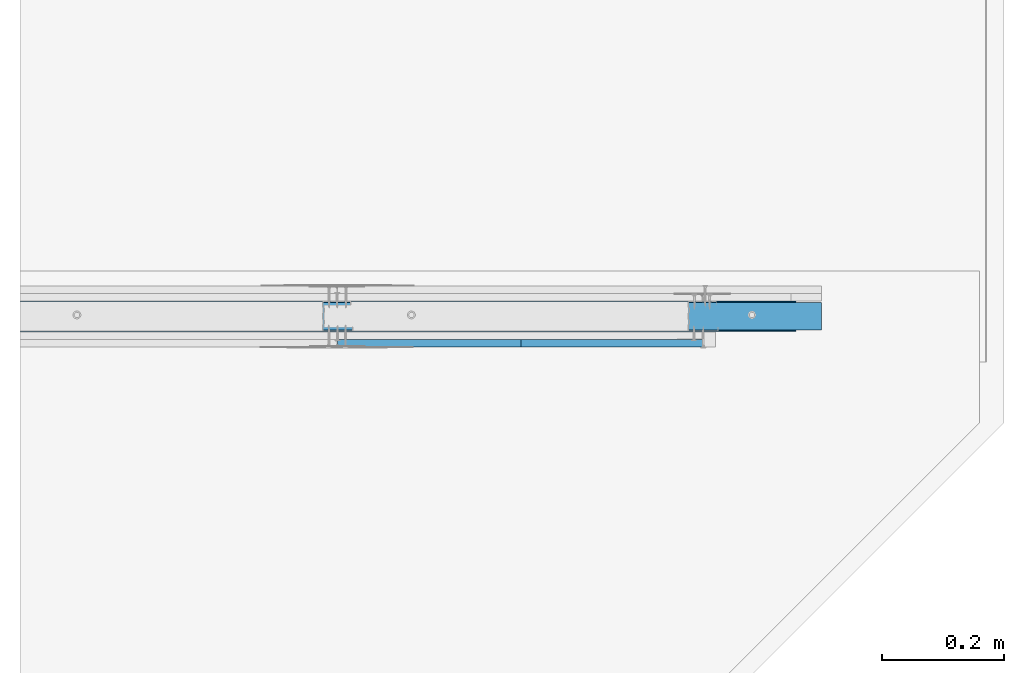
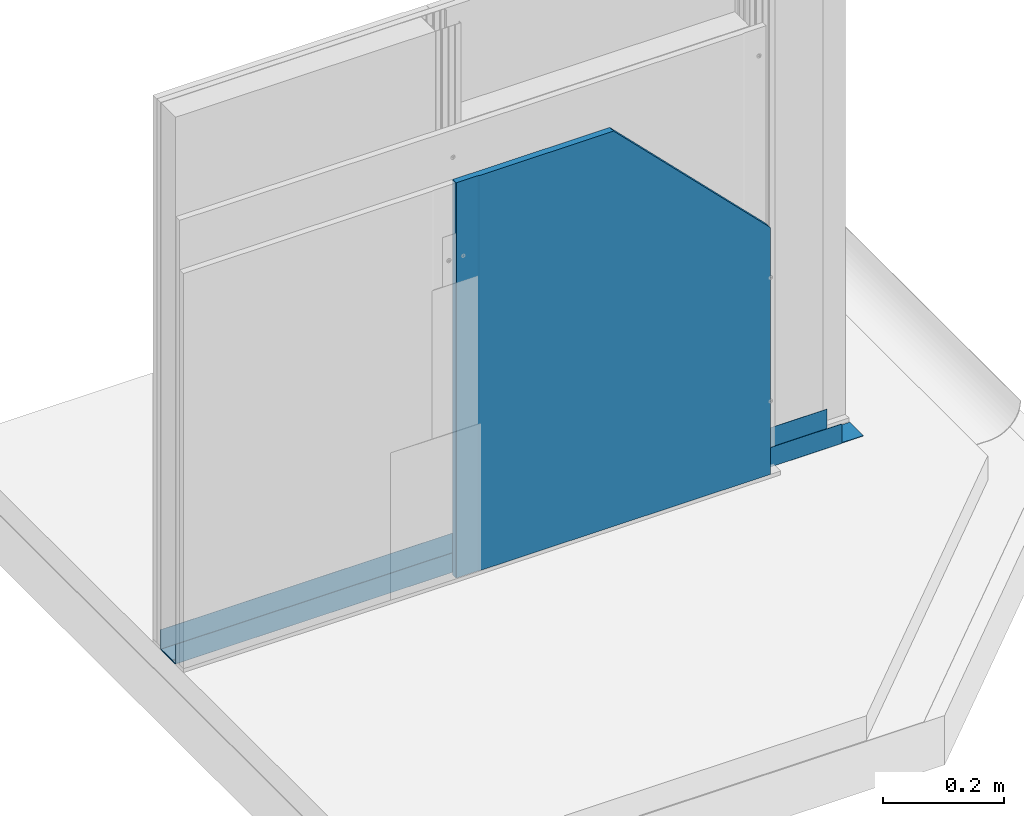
# One storey, part 2 of 37: 3 walls.
"""IFC2X3 building model written with IfcOpenShell, lengths in millimetres."""

from ifc_helpers import new_model, entity, si_unit, converted_unit, direction, frame, origin, origin_with_axes, place, context, project, spatial, faceted_brep, element, save


model = new_model("IFC2X3")

# Units and contexts
model_context = context("Model", 3, precision=1e-05, world=origin(), true_north=direction((0.0, 1.0, 0.0)))
ifc_project = project(units=[si_unit("LENGTHUNIT", "METRE", prefix="MILLI"), si_unit("AREAUNIT", "SQUARE_METRE"), si_unit("VOLUMEUNIT", "CUBIC_METRE"), converted_unit("PLANEANGLEUNIT", "DEGREE", entity("IfcPlaneAngleMeasure", 0.01745), si_unit("PLANEANGLEUNIT", "RADIAN"), dimensions=[0, 0, 0, 0, 0, 0, 0]), si_unit("SOLIDANGLEUNIT", "STERADIAN"), si_unit("MASSUNIT", "GRAM"), si_unit("TIMEUNIT", "SECOND"), si_unit("THERMODYNAMICTEMPERATUREUNIT", "DEGREE_CELSIUS"), si_unit("LUMINOUSINTENSITYUNIT", "LUMEN")], contexts=[model_context])

# Site, building, storey
site_placement = place(None, origin_with_axes())
site = spatial("IfcSite", under=ifc_project, at=site_placement, Name="Default Site", CompositionType="ELEMENT")
building_placement = place(site_placement, origin_with_axes())
building = spatial("IfcBuilding", under=site, at=building_placement, Name="Default Building", CompositionType="ELEMENT")
storey_placement = place(building_placement, origin_with_axes())
storey = spatial("IfcBuildingStorey", under=building, at=storey_placement, Name="Default Building Storey", CompositionType="ELEMENT", Elevation=0.0)

# Walls
wall_1_placement = place(storey_placement, frame((3207.215400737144, 5452.424146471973, 59.39039522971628), z_axis=(6.446348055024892e-14, -6.858158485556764e-13, 1.0), x_axis=(1.0, -1.14833748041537e-16, -9.00774876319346e-14)))
element("IfcWall", 1, at=wall_1_placement, inside=storey, Name="Profil RIGIPS UW50 ULTRASTIL®", context=model_context, shape_type="Brep", body=[
    faceted_brep([(-943.956929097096, -3470.476261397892, -4.901701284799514), (-943.956929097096, -3470.287116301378, -4.783410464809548), (-943.956929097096, -3470.128902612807, -4.626130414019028), (-1082.190267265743, -3470.128902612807, -4.626130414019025), (-1082.190267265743, -3470.476261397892, -4.901701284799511), (-943.956929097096, -3470.063927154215, -4.535249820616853), (-943.956929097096, -3470.009494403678, -4.437688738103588), (-1082.190267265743, -3470.009494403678, -4.437688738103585), (-943.956929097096, -3440.279331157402, -4.783410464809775), (-943.956929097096, -3440.090186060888, -4.901701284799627), (-943.956929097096, -3439.87952304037, -4.97511570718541), (-1082.190267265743, -3439.87952304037, -4.975115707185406), (-1082.190267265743, -3440.279331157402, -4.783410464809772), (-943.9569290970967, -3440.819375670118, -2.866589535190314), (-943.9569290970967, -3441.008520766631, -2.748298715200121), (-943.9569290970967, -3441.219183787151, -2.674884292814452), (-1082.190267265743, -3441.219183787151, -2.67488429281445), (-1082.190267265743, -3440.819375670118, -2.866589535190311), (-943.9569290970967, -3469.55792669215, -2.74829871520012), (-943.9569290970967, -3469.747071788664, -2.866589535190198), (-943.9569290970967, -3469.905285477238, -3.023869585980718), (-1082.190267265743, -3469.905285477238, -3.023869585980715), (-1082.190267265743, -3469.55792669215, -2.748298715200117), (-1082.190267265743, -3479.733223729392, 35.00000000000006), (-1082.190267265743, -3480.283223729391, 35.00000000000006), (-1082.190267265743, -3480.283223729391, -4.199999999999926), (-1082.190267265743, -3480.273374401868, -4.325147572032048), (-1082.190267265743, -3480.244068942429, -4.447213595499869), (-1082.190267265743, -3480.196028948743, -4.563192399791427), (-1082.190267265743, -3480.130437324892, -4.670228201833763), (-1082.190267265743, -3480.048909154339, -4.765685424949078), (-1082.190267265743, -3479.953451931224, -4.847213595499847), (-1082.190267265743, -3479.846416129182, -4.912805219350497), (-1082.190267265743, -3479.73043732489, -4.960845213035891), (-1082.190267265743, -3479.608371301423, -4.99015067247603), (-1082.190267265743, -3479.483223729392, -4.999999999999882), (-1082.190267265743, -3470.908620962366, -4.999999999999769), (-1082.190267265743, -3470.686924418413, -4.975115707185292), (-1082.190267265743, -3469.680725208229, -3.762311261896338), (-1082.190267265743, -3469.561316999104, -3.573869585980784), (-1082.190267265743, -3469.403103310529, -3.416589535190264), (-1082.190267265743, -3469.213958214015, -3.298298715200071), (-1082.190267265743, -3469.003295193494, -3.224884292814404), (-1082.190267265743, -3468.781598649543, -3.199999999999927), (-1082.190267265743, -3441.78484880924, -3.199999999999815), (-1082.190267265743, -3441.563152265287, -3.224884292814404), (-1082.190267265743, -3441.352489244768, -3.298298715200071), (-1082.190267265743, -3441.163344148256, -3.416589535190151), (-1082.190267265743, -3441.005130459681, -3.573869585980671), (-1082.190267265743, -3440.885722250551, -3.762311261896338), (-1082.190267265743, -3440.556953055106, -4.437688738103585), (-1082.190267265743, -3440.437544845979, -4.626130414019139), (-1082.190267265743, -3439.657826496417, -4.999999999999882), (-1082.190267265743, -3431.083223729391, -4.999999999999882), (-1082.190267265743, -3430.95807615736, -4.990150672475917), (-1082.190267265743, -3430.83601013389, -4.960845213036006), (-1082.190267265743, -3430.720031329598, -4.912805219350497), (-1082.190267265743, -3430.612995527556, -4.847213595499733), (-1082.190267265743, -3430.51753830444, -4.765685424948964), (-1082.190267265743, -3430.436010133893, -4.670228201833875), (-1082.190267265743, -3430.370418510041, -4.563192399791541), (-1082.190267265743, -3430.322378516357, -4.447213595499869), (-1082.190267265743, -3430.293073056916, -4.325147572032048), (-1082.190267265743, -3430.283223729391, -4.199999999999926), (-1082.190267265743, -3430.283223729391, 35.00000000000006), (-1082.190267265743, -3430.833223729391, 35.00000000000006), (-1082.190267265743, -3430.833223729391, -4.199999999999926), (-1082.190267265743, -3430.836301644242, -4.23910861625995), (-1082.190267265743, -3430.845459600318, -4.27725424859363), (-1082.190267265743, -3430.860472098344, -4.313497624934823), (-1082.190267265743, -3430.880969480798, -4.346946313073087), (-1082.190267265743, -3430.906447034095, -4.376776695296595), (-1082.190267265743, -3430.936277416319, -4.402254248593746), (-1082.190267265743, -3430.969726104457, -4.422751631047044), (-1082.190267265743, -3431.005969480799, -4.437764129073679), (-1082.190267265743, -3431.044115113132, -4.44692208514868), (-1082.190267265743, -3431.083223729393, -4.449999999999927), (-1082.190267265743, -3439.313858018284, -4.45000000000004), (-1082.190267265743, -3439.535554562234, -4.425115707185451), (-1082.190267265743, -3439.746217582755, -4.351701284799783), (-1082.190267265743, -3439.935362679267, -4.233410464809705), (-1082.190267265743, -3440.093576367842, -4.076130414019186), (-1082.190267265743, -3440.212984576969, -3.887688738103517), (-1082.190267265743, -3440.541753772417, -3.212311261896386), (-1082.190267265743, -3440.661161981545, -3.02386958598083), (-1082.190267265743, -3441.440880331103, -2.649999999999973), (-1082.190267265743, -3469.125567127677, -2.649999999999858), (-1082.190267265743, -3469.347263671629, -2.674884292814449), (-1082.190267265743, -3470.024693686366, -3.212311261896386), (-1082.190267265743, -3470.353462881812, -3.887688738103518), (-1082.190267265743, -3470.472871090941, -4.076130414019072), (-1082.190267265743, -3470.631084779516, -4.233410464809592), (-1082.190267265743, -3470.820229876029, -4.351701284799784), (-1082.190267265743, -3471.030892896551, -4.425115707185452), (-1082.190267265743, -3471.252589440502, -4.449999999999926), (-1082.190267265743, -3479.483223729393, -4.449999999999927), (-1082.190267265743, -3479.522332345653, -4.446922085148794), (-1082.190267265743, -3479.560477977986, -4.437764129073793), (-1082.190267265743, -3479.596721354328, -4.422751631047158), (-1082.190267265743, -3479.630170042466, -4.402254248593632), (-1082.190267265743, -3479.660000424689, -4.376776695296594), (-1082.190267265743, -3479.685477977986, -4.346946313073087), (-1082.190267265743, -3479.705975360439, -4.313497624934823), (-1082.190267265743, -3479.720987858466, -4.27725424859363), (-1082.190267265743, -3479.730145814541, -4.23910861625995), (-1082.190267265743, -3479.733223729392, -4.199999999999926), (193.5273232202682, -3480.283223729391, -4.200000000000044), (193.5273232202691, -3480.283223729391, 35.0), (193.5273232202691, -3479.733223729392, 35.0), (193.5273232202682, -3479.733223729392, -4.200000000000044), (193.5273232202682, -3479.730145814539, -4.239108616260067), (193.5273232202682, -3479.720987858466, -4.277254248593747), (193.5273232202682, -3479.705975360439, -4.313497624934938), (193.5273232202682, -3479.685477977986, -4.346946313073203), (193.5273232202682, -3479.660000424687, -4.376776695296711), (193.5273232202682, -3479.630170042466, -4.402254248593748), (193.5273232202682, -3479.596721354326, -4.422751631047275), (193.5273232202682, -3479.560477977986, -4.43776412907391), (193.5273232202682, -3479.522332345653, -4.446922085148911), (193.5273232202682, -3479.483223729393, -4.450000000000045), (193.5273232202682, -3471.252589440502, -4.450000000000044), (193.5273232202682, -3471.030892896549, -4.425115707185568), (193.5273232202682, -3470.820229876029, -4.3517012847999), (193.5273232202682, -3470.631084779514, -4.233410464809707), (193.5273232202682, -3470.472871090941, -4.076130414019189), (193.5273232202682, -3470.353462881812, -3.887688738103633), (193.5273232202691, -3470.024693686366, -3.212311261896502), (193.5273232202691, -3469.905285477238, -3.023869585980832), (193.5273232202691, -3469.747071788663, -2.866589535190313), (193.5273232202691, -3469.55792669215, -2.748298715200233), (193.5273232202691, -3469.347263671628, -2.674884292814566), (193.5273232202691, -3469.125567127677, -2.649999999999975), (193.5273232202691, -3441.440880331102, -2.650000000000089), (193.5273232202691, -3441.219183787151, -2.674884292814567), (193.5273232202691, -3441.008520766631, -2.748298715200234), (193.5273232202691, -3440.819375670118, -2.866589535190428), (193.5273232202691, -3440.661161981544, -3.023869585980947), (193.5273232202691, -3440.541753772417, -3.212311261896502), (193.5273232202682, -3440.212984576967, -3.887688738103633), (193.5273232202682, -3440.093576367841, -4.076130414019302), (193.5273232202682, -3439.935362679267, -4.233410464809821), (193.5273232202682, -3439.746217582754, -4.3517012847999), (193.5273232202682, -3439.535554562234, -4.425115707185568), (193.5273232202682, -3439.313858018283, -4.450000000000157), (193.5273232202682, -3431.083223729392, -4.450000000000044), (193.5273232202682, -3431.044115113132, -4.446922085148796), (193.5273232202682, -3431.005969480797, -4.437764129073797), (193.5273232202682, -3430.969726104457, -4.422751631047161), (193.5273232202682, -3430.936277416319, -4.402254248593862), (193.5273232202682, -3430.906447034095, -4.376776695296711), (193.5273232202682, -3430.880969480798, -4.346946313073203), (193.5273232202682, -3430.860472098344, -4.313497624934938), (193.5273232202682, -3430.845459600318, -4.277254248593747), (193.5273232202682, -3430.836301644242, -4.239108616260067), (193.5273232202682, -3430.833223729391, -4.200000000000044), (193.5273232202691, -3430.833223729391, 35.0), (193.5273232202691, -3430.283223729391, 35.0), (193.5273232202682, -3430.283223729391, -4.200000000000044), (193.5273232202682, -3430.293073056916, -4.325147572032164), (193.5273232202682, -3430.322378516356, -4.447213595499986), (193.5273232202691, -3430.370418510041, -4.563192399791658), (193.5273232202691, -3430.436010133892, -4.670228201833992), (193.5273232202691, -3430.51753830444, -4.765685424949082), (193.5273232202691, -3430.612995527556, -4.84721359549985), (193.5273232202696, -3430.720031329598, -4.912805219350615), (193.5273232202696, -3430.83601013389, -4.960845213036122), (193.5273232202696, -3430.958076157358, -4.990150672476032), (193.5273232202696, -3431.083223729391, -4.999999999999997), (193.5273232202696, -3439.657826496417, -4.999999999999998), (193.5273232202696, -3439.879523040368, -4.975115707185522), (193.5273232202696, -3440.090186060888, -4.901701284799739), (193.5273232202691, -3440.279331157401, -4.783410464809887), (193.5273232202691, -3440.437544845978, -4.626130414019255), (193.5273232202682, -3440.556953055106, -4.437688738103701), (193.5273232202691, -3440.88572225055, -3.762311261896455), (193.5273232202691, -3441.005130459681, -3.573869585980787), (193.5273232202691, -3441.163344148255, -3.416589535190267), (193.5273232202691, -3441.352489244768, -3.298298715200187), (193.5273232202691, -3441.563152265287, -3.22488429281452), (193.5273232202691, -3441.78484880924, -3.199999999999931), (193.5273232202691, -3468.781598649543, -3.200000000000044), (193.5273232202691, -3469.003295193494, -3.22488429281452), (193.5273232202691, -3469.213958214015, -3.298298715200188), (193.5273232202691, -3469.403103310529, -3.416589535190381), (193.5273232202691, -3469.561316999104, -3.5738695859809), (193.5273232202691, -3469.680725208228, -3.762311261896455), (193.5273232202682, -3470.009494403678, -4.437688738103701), (193.5273232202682, -3470.063927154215, -4.535249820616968), (193.5273232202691, -3470.128902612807, -4.626130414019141), (193.5273232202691, -3470.287116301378, -4.783410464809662), (193.5273232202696, -3470.476261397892, -4.901701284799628), (193.5273232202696, -3470.686924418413, -4.975115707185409), (193.5273232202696, -3470.908620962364, -4.999999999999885), (193.5273232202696, -3479.483223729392, -4.999999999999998), (193.5273232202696, -3479.608371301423, -4.990150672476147), (193.5273232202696, -3479.730437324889, -4.960845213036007), (193.5273232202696, -3479.846416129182, -4.912805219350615), (193.5273232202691, -3479.953451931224, -4.847213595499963), (193.5273232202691, -3480.048909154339, -4.765685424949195), (193.5273232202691, -3480.130437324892, -4.670228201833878), (193.5273232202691, -3480.196028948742, -4.563192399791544), (193.5273232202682, -3480.244068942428, -4.447213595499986), (193.5273232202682, -3480.273374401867, -4.325147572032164)], [[[0, 1, 2, 3, 4]], [[2, 5, 6, 7, 3]], [[8, 9, 10, 11, 12]], [[13, 14, 15, 16, 17]], [[18, 19, 20, 21, 22]], [[23, 24, 25, 26, 27, 28, 29, 30, 31, 32, 33, 34, 35, 36, 37, 4, 3, 7, 38, 39, 40, 41, 42, 43, 44, 45, 46, 47, 48, 49, 50, 51, 12, 11, 52, 53, 54, 55, 56, 57, 58, 59, 60, 61, 62, 63, 64, 65, 66, 67, 68, 69, 70, 71, 72, 73, 74, 75, 76, 77, 78, 79, 80, 81, 82, 83, 84, 17, 16, 85, 86, 87, 22, 21, 88, 89, 90, 91, 92, 93, 94, 95, 96, 97, 98, 99, 100, 101, 102, 103, 104, 105]], [[106, 107, 108, 109, 110, 111, 112, 113, 114, 115, 116, 117, 118, 119, 120, 121, 122, 123, 124, 125, 126, 127, 128, 129, 130, 131, 132, 133, 134, 135, 136, 137, 138, 139, 140, 141, 142, 143, 144, 145, 146, 147, 148, 149, 150, 151, 152, 153, 154, 155, 156, 157, 158, 159, 160, 161, 162, 163, 164, 165, 166, 167, 168, 169, 170, 171, 172, 173, 174, 175, 176, 177, 178, 179, 180, 181, 182, 183, 184, 185, 186, 187, 188, 189, 190, 191, 192, 193, 194, 195, 196, 197, 198, 199, 200, 201, 202]], [[63, 157, 156, 64]], [[64, 156, 155, 65]], [[65, 155, 154, 66]], [[144, 76, 75, 145]], [[74, 146, 145, 75]], [[73, 147, 146, 74]], [[147, 73, 72, 148]], [[71, 149, 148, 72]], [[149, 71, 70, 150]], [[69, 151, 150, 70]], [[68, 152, 151, 69]], [[152, 68, 67, 153]], [[66, 154, 153, 67]], [[76, 144, 143, 77]], [[81, 139, 138, 82]], [[80, 140, 139, 81]], [[79, 141, 140, 80]], [[143, 142, 78, 77]], [[78, 142, 141, 79]], [[82, 138, 137, 83]], [[15, 133, 132, 85, 16]], [[14, 134, 133, 15]], [[13, 135, 134, 14]], [[84, 136, 135, 13, 17]], [[137, 136, 84, 83]], [[85, 132, 131, 86]], [[20, 127, 126, 88, 21]], [[19, 128, 127, 20]], [[18, 129, 128, 19]], [[87, 130, 129, 18, 22]], [[131, 130, 87, 86]], [[88, 126, 125, 89]], [[93, 121, 120, 94]], [[92, 122, 121, 93]], [[91, 123, 122, 92]], [[125, 124, 90, 89]], [[90, 124, 123, 91]], [[94, 120, 119, 95]], [[109, 105, 104, 110]], [[103, 111, 110, 104]], [[102, 112, 111, 103]], [[112, 102, 101, 113]], [[100, 114, 113, 101]], [[114, 100, 99, 115]], [[98, 116, 115, 99]], [[97, 117, 116, 98]], [[117, 97, 96, 118]], [[95, 119, 118, 96]], [[105, 109, 108, 23]], [[23, 108, 107, 24]], [[24, 107, 106, 25]], [[33, 195, 194, 34]], [[194, 193, 35, 34]], [[32, 196, 195, 33]], [[30, 198, 197, 31]], [[197, 196, 32, 31]], [[28, 200, 199, 29]], [[199, 198, 30, 29]], [[27, 201, 200, 28]], [[25, 106, 202, 26]], [[202, 201, 27, 26]], [[35, 193, 192, 36]], [[5, 2, 188, 187]], [[187, 186, 6, 5]], [[1, 189, 188, 2]], [[0, 190, 189, 1]], [[37, 191, 190, 0, 4]], [[192, 191, 37, 36]], [[6, 186, 185, 38, 7]], [[42, 181, 180, 43]], [[41, 182, 181, 42]], [[40, 183, 182, 41]], [[185, 184, 39, 38]], [[39, 184, 183, 40]], [[43, 180, 179, 44]], [[48, 175, 174, 49]], [[47, 176, 175, 48]], [[46, 177, 176, 47]], [[179, 178, 45, 44]], [[45, 178, 177, 46]], [[49, 174, 173, 50]], [[10, 169, 168, 52, 11]], [[9, 170, 169, 10]], [[8, 171, 170, 9]], [[51, 172, 171, 8, 12]], [[173, 172, 51, 50]], [[52, 168, 167, 53]], [[61, 159, 158, 62]], [[158, 157, 63, 62]], [[60, 160, 159, 61]], [[58, 162, 161, 59]], [[161, 160, 60, 59]], [[56, 164, 163, 57]], [[163, 162, 58, 57]], [[55, 165, 164, 56]], [[53, 167, 166, 54]], [[166, 165, 55, 54]]]),
])
wall_2_placement = place(storey_placement, frame((2647.242430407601, 1958.680077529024, 1110.999999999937), z_axis=(0.0, 0.0, 1.0), x_axis=(1.0, 0.0, 0.0)))
element("IfcWall", 2, at=wall_2_placement, inside=storey, Name="Płyta gipsowo-kartonowa RIGIPS PRO (4PRO™)", context=model_context, shape_type="Brep", body=[
    faceted_brep([(601.187218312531, -12.49999999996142, -550.0000000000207), (301.1872183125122, -12.49999999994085, -250.0000000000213), (301.1872183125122, 3.97051280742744e-11, -250.0000000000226), (601.1872183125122, 5.919673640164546e-11, -550.000000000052), (601.1872183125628, -12.49999999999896, -1050.001581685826), (44.99999999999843, -12.50000000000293, -1050.001581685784), (44.99999999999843, -12.50000000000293, -249.9999999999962), (601.187218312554, 2.526689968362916e-12, -1050.001581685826), (285.9232783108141, 4.475850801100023e-11, -250.0000000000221), (40.99999999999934, -11.50000000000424, -249.9999999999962), (0.9999999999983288, -11.5000000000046, -249.9999999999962), (0.7411809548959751, -11.46592582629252, -249.9999999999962), (0.4999999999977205, -11.3660254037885, -249.9999999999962), (0.29289321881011, -11.20710678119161, -249.9999999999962), (0.1339745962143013, -11.00000000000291, -249.9999999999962), (0.03407417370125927, -10.7588190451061, -249.9999999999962), (-3.97051280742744e-12, -10.50000000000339, -249.9999999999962), (0.0, 0.0, -249.9999999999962), (40.99999999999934, -11.50000000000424, -1050.001581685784), (0.9999999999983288, -11.5000000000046, -1050.001581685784), (0.7411809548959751, -11.46592582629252, -1050.001581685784), (0.4999999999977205, -11.3660254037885, -1050.001581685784), (0.29289321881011, -11.20710678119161, -1050.001581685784), (0.1339745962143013, -11.00000000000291, -1050.001581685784), (0.03407417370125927, -10.7588190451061, -1050.001581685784), (-3.97051280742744e-12, -10.50000000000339, -1050.001581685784), (0.0, 0.0, -1050.001581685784)], [[[0, 1, 2, 3]], [[0, 4, 5, 6, 1]], [[3, 7, 4, 0]], [[8, 2, 1, 6, 9, 10, 11, 12, 13, 14, 15, 16, 17]], [[2, 8, 3]], [[9, 6, 5, 18]], [[10, 9, 18, 19]], [[11, 10, 19, 20]], [[12, 11, 20, 21]], [[13, 12, 21, 22]], [[14, 13, 22, 23]], [[15, 14, 23, 24]], [[16, 15, 24, 25]], [[17, 16, 25, 26]], [[26, 7, 3, 8, 17]], [[5, 4, 7, 26, 25, 24, 23, 22, 21, 20, 19, 18]]]),
])
wall_3_placement = place(storey_placement, frame((3247.741854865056, 5452.424146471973, 59.3903952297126), z_axis=(6.44634805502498e-14, -6.858158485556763e-13, 1.0), x_axis=(1.0, -1.14833748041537e-16, -9.007748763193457e-14)))
element("IfcWall", 3, at=wall_3_placement, inside=storey, Name="Taśma uszczelniająca piankowa RIGIPS", context=model_context, shape_type="Brep", body=[
    faceted_brep([(-1122.716721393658, -3477.783223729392, -5.000000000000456), (-1122.716721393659, -3477.862841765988, -6.00636944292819), (-1122.716721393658, -3432.691889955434, -5.864971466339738), (-1122.716721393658, -3432.783223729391, -5.000000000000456), (195.2987633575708, -3477.862841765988, -6.006369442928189), (195.2987633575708, -3477.783223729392, -5.000000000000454), (195.2987633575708, -3432.783223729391, -5.000000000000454), (195.2987633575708, -3432.691889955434, -5.864971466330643)], [[[0, 1, 2, 3]], [[4, 5, 6, 7]], [[5, 0, 3, 6]], [[6, 3, 2, 7]], [[7, 2, 1, 4]], [[4, 1, 0, 5]]]),
])

save(model, "model.ifc")
